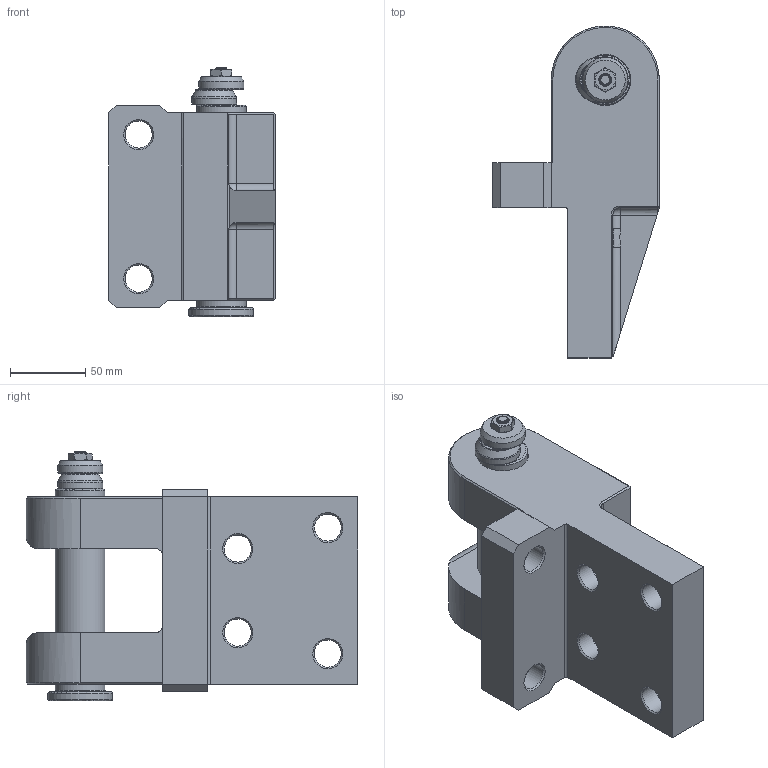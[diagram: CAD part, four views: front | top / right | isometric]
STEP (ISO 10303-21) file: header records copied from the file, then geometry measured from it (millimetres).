
FILE_DESCRIPTION(/* description */ (''),/* implementation_level */ '2;1');
FILE_NAME(/* name */ '2133.12.034.stp',/* time_stamp */ '2023-09-04T17:56:15+08:00',/* author */ (''),/* organization */ (''),/* preprocessor_version */ 'ST-DEVELOPER v16',/* originating_system */ 'SIEMENS PLM Software NX 10.0',/* authorisation */ '');
FILE_SCHEMA (('CONFIG_CONTROL_DESIGN'));
Products named in the file (1): 2133.12.034.prt_model
Bounding box: 111 x 221 x 166.5 mm (x, y, z)
Volume: 1237306.8 mm3; surface area: 146648.6 mm2
Topology: 5 solids, 5 shells, 849 faces, 4369 edges, 3603 vertices
Faces by surface type: plane 389, bspline 339, cylinder 75, cone 31, torus 13, sphere 2
Full cylindrical faces by diameter (mm): 12 x1, 18 x6, 22 x1, 28 x6, 30 x2, 33 x1, 34 x2, 43 x1
Entity records: 53763 total; most frequent: CARTESIAN_POINT 28710, ORIENTED_EDGE 8630, EDGE_CURVE 4315, VERTEX_POINT 3603, B_SPLINE_CURVE_WITH_KNOTS 3521, DIRECTION 1022, EDGE_LOOP 998, ADVANCED_FACE 849
